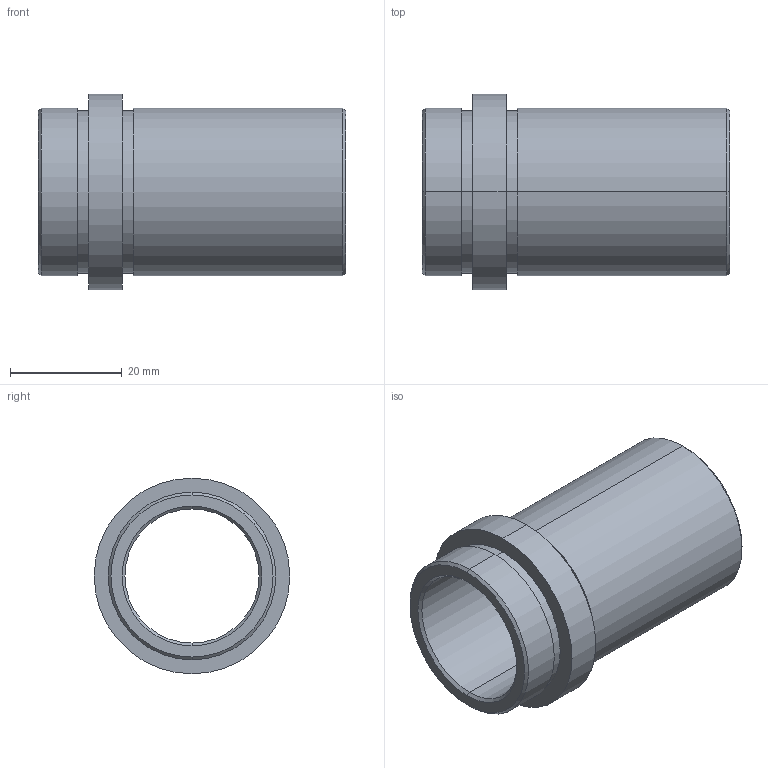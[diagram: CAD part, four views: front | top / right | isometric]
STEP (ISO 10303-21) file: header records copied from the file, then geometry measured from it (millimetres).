
FILE_DESCRIPTION( ( 'STEP AP203' ), '1' );
FILE_NAME( 'D:/Delta 3 D/D21/D21 - 24x46.step', '2002-12-31T22:48:43', ( ' ' ), ( ' ' ), 'XStep 1.0', ' ', ' ' );
FILE_SCHEMA( ( 'CONFIG_CONTROL_DESIGN' ) );
Length unit declared in the file: metre
Products named in the file (1): 1
Bounding box: 55 x 35 x 35 mm (x, y, z)
Volume: 15299.6 mm3; surface area: 10517.6 mm2
Topology: 1 solids, 1 shells, 26 faces, 52 edges, 32 vertices
Faces by surface type: revolution 20, bspline 6
Entity records: 773 total; most frequent: CARTESIAN_POINT 169, DIRECTION 106, ORIENTED_EDGE 104, EDGE_CURVE 52, AXIS2_PLACEMENT_3D 33, EDGE_LOOP 32, VERTEX_POINT 32, CIRCLE 32
